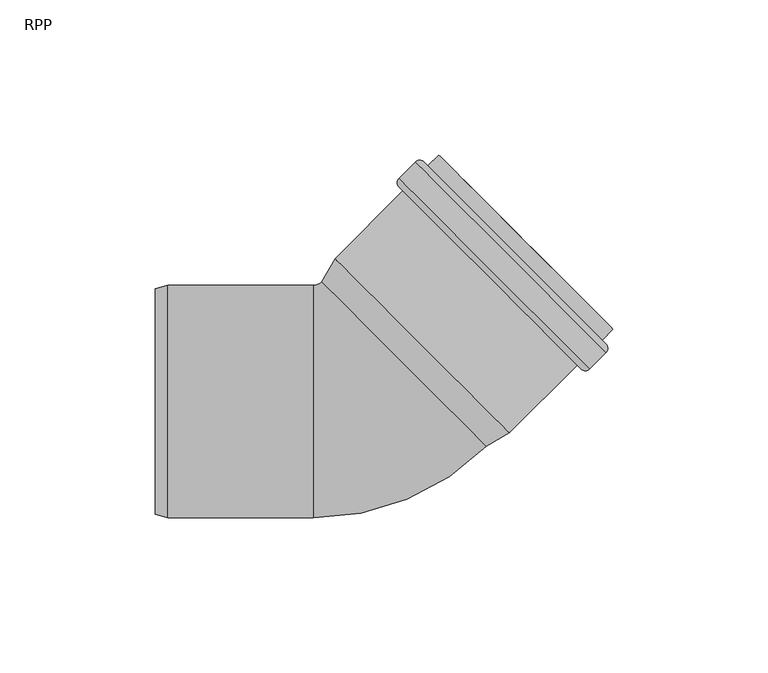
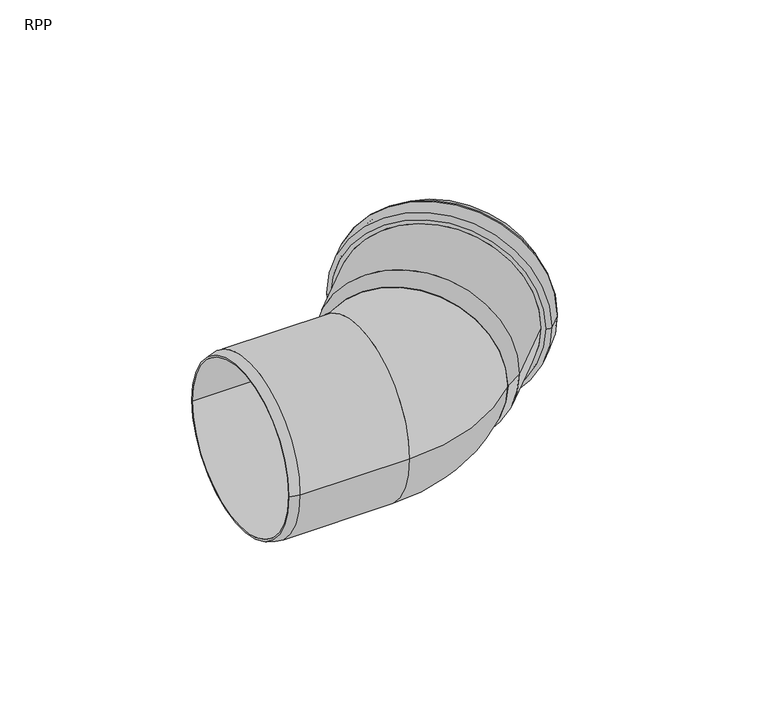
"""IFC4 building model written with IfcOpenShell, lengths in millimetres: pipe fitting geometry, RAUPIANO PLUS Bend : RPP."""

from ifc_helpers import new_model, si_unit, point, frame, origin, place, context, project, spatial, polyline, circle_curve, ellipse_curve, trimmed, source, transform, mapped, element, save
from ifc_brep_helpers import plane_surface, cylinder_surface, revolved_surface, advanced_brep


def rpp_6b59349f(model_context):
    return source(origin(), model_context, "Body", "AdvancedBrep", [
        advanced_brep(
        [(37.2806763, -12.9705392, 0.0), (-12.9705392, 37.2806763, 0.0), (-8.5909837, 44.866289, 0.0), (44.866289, -8.5909837, 0.0), (46.0329163, -10.1113621, 0.0), (-10.1113621, 46.0329163, 0.0), (-14.3614357, 38.6715729, 0.0), (38.6715729, -14.3614357, 0.0), (67.9457936, 11.8015152, 0.0), (11.8015152, 67.9457936, 0.0), (77.2796031, 15.7613132, 0.0), (15.7613132, 77.2796031, 0.0), (10.528723, 72.0470129, 0.0), (72.0470129, 10.528723, 0.0), (79.5423448, 23.3980664, 0.0), (23.3980664, 79.5423448, 0.0), (19.8625325, 76.0068109, 0.0), (76.0068109, 19.8625325, 0.0), (73.3198052, 19.8625325, 0.0), (19.8625325, 73.3198052, 0.0), (24.7415693, 78.1988419, 0.0), (78.1988419, 24.7415693, 0.0), (70.9863528, 12.1550686, 0.0), (12.1550686, 70.9863528, 0.0), (16.8219733, 75.6532575, 0.0), (75.6532575, 16.8219733, 0.0), (14.488521, 67.9457936, 0.0), (67.9457936, 14.488521, 0.0), (10.528723, 69.2185858, 0.0), (69.2185858, 10.528723, 0.0), (77.2796031, 18.5897403, 0.0), (18.5897403, 77.2796031, 0.0), (17.5290801, 75.6532575, 0.0), (75.6532575, 17.5290801, 0.0), (70.279246, 12.1550686, 0.0), (12.1550686, 70.279246, 0.0)],
        [
            (0, 1, circle_curve(frame((12.1550686, 12.1550686, 0.0), z_axis=(-0.7071067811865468, -0.7071067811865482, 0.0), x_axis=(-0.7071067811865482, 0.7071067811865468, 0.0)), 35.5329753)),
            (1, 2),
            (2, 3, circle_curve(frame((18.1376526, 18.1376526, 0.0), z_axis=(0.7071067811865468, 0.7071067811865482, 0.0), x_axis=(-0.7071067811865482, 0.7071067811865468, 0.0)), 37.8)),
            (3, 0),
            (4, 5, circle_curve(frame((17.9607771, 17.9607771, 0.0), z_axis=(-0.7071067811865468, -0.7071067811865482, 0.0), x_axis=(-0.7071067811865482, 0.7071067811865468, 0.0)), 39.7)),
            (5, 6),
            (6, 7, circle_curve(frame((12.1550686, 12.1550686, 0.0), z_axis=(0.7071067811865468, 0.7071067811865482, 0.0), x_axis=(-0.7071067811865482, 0.7071067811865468, 0.0)), 37.5)),
            (7, 4),
            (8, 9, circle_curve(frame((39.8736544, 39.8736544, 0.0), z_axis=(-0.7071067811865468, -0.7071067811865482, 0.0), x_axis=(-0.7071067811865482, 0.7071067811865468, 0.0)), 39.7)),
            (9, 5),
            (4, 8),
            (10, 11, circle_curve(frame((46.5204581, 46.5204581, 0.0), z_axis=(-0.7071067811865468, -0.7071067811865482, 0.0), x_axis=(-0.7071067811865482, 0.7071067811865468, 0.0)), 43.5)),
            (11, 12),
            (12, 13, circle_curve(frame((41.287868, 41.287868, 0.0), z_axis=(0.7071067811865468, 0.7071067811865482, 0.0), x_axis=(-0.7071067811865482, 0.7071067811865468, 0.0)), 43.5)),
            (13, 10),
            (14, 15, circle_curve(frame((51.4702056, 51.4702056, 0.0), z_axis=(-0.7071067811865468, -0.7071067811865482, 0.0), x_axis=(-0.7071067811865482, 0.7071067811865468, 0.0)), 39.7)),
            (15, 16),
            (16, 17, circle_curve(frame((47.9346717, 47.9346717, 0.0), z_axis=(0.7071067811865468, 0.7071067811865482, 0.0), x_axis=(-0.7071067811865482, 0.7071067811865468, 0.0)), 39.7)),
            (17, 14),
            (18, 19, circle_curve(frame((46.5911688, 46.5911688, 0.0), z_axis=(-0.7071067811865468, -0.7071067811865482, 0.0), x_axis=(-0.7071067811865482, 0.7071067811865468, 0.0)), 37.8)),
            (19, 20),
            (20, 21, circle_curve(frame((51.4702056, 51.4702056, 0.0), z_axis=(0.7071067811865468, 0.7071067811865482, 0.0), x_axis=(-0.7071067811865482, 0.7071067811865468, 0.0)), 37.8)),
            (21, 18),
            (22, 23, circle_curve(frame((41.5707107, 41.5707107, 0.0), z_axis=(-0.7071067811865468, -0.7071067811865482, 0.0), x_axis=(-0.7071067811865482, 0.7071067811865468, 0.0)), 41.6)),
            (23, 24),
            (24, 25, circle_curve(frame((46.2376154, 46.2376154, 0.0), z_axis=(0.7071067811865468, 0.7071067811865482, 0.0), x_axis=(-0.7071067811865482, 0.7071067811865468, 0.0)), 41.6)),
            (25, 22),
            (2, 26),
            (26, 27, circle_curve(frame((41.2171573, 41.2171573, 0.0), z_axis=(0.7071067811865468, 0.7071067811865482, 0.0), x_axis=(-0.7071067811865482, 0.7071067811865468, 0.0)), 37.8)),
            (27, 3),
            (1, 0, circle_curve(frame((12.1550686, 12.1550686, 0.0), z_axis=(-0.7071067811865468, -0.7071067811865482, 0.0), x_axis=(0.7071067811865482, -0.7071067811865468, 0.0)), 35.5329753)),
            (3, 2, circle_curve(frame((18.1376526, 18.1376526, 0.0), z_axis=(0.7071067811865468, 0.7071067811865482, 0.0), x_axis=(0.7071067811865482, -0.7071067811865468, 0.0)), 37.8)),
            (6, 7, circle_curve(frame((12.1550686, 12.1550686, 0.0), z_axis=(-0.7071067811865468, -0.7071067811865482, 0.0), x_axis=(0.7071067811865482, -0.7071067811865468, 0.0)), 37.5)),
            (5, 4, circle_curve(frame((17.9607771, 17.9607771, 0.0), z_axis=(-0.7071067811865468, -0.7071067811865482, 0.0), x_axis=(0.7071067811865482, -0.7071067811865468, 0.0)), 39.7)),
            (9, 8, circle_curve(frame((39.8736544, 39.8736544, 0.0), z_axis=(-0.7071067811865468, -0.7071067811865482, 0.0), x_axis=(0.7071067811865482, -0.7071067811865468, 0.0)), 39.7)),
            (28, 29, circle_curve(frame((39.8736544, 39.8736544, 0.0), z_axis=(-0.7071067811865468, -0.7071067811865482, 0.0), x_axis=(0.7071067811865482, -0.7071067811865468, 0.0)), 41.5)),
            (29, 28, circle_curve(frame((39.8736544, 39.8736544, 0.0), z_axis=(-0.7071067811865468, -0.7071067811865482, 0.0), x_axis=(-0.7071067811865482, 0.7071067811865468, 0.0)), 41.5)),
            (11, 10, circle_curve(frame((46.5204581, 46.5204581, 0.0), z_axis=(-0.7071067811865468, -0.7071067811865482, 0.0), x_axis=(0.7071067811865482, -0.7071067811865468, 0.0)), 43.5)),
            (13, 12, circle_curve(frame((41.287868, 41.287868, 0.0), z_axis=(0.7071067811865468, 0.7071067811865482, 0.0), x_axis=(0.7071067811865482, -0.7071067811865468, 0.0)), 43.5)),
            (30, 31, circle_curve(frame((47.9346717, 47.9346717, 0.0), z_axis=(0.7071067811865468, 0.7071067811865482, 0.0), x_axis=(0.7071067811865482, -0.7071067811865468, 0.0)), 41.5)),
            (31, 30, circle_curve(frame((47.9346717, 47.9346717, 0.0), z_axis=(0.7071067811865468, 0.7071067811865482, 0.0), x_axis=(-0.7071067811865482, 0.7071067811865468, 0.0)), 41.5)),
            (16, 17, circle_curve(frame((47.9346717, 47.9346717, 0.0), z_axis=(-0.7071067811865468, -0.7071067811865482, 0.0), x_axis=(0.7071067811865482, -0.7071067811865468, 0.0)), 39.7)),
            (15, 14, circle_curve(frame((51.4702056, 51.4702056, 0.0), z_axis=(-0.7071067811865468, -0.7071067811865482, 0.0), x_axis=(0.7071067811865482, -0.7071067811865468, 0.0)), 39.7)),
            (20, 21, circle_curve(frame((51.4702056, 51.4702056, 0.0), z_axis=(-0.7071067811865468, -0.7071067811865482, 0.0), x_axis=(0.7071067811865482, -0.7071067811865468, 0.0)), 37.8)),
            (19, 18, circle_curve(frame((46.5911688, 46.5911688, 0.0), z_axis=(-0.7071067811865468, -0.7071067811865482, 0.0), x_axis=(0.7071067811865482, -0.7071067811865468, 0.0)), 37.8)),
            (32, 33, circle_curve(frame((46.5911688, 46.5911688, 0.0), z_axis=(-0.7071067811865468, -0.7071067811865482, 0.0), x_axis=(0.7071067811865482, -0.7071067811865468, 0.0)), 41.1)),
            (33, 32, circle_curve(frame((46.5911688, 46.5911688, 0.0), z_axis=(-0.7071067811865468, -0.7071067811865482, 0.0), x_axis=(-0.7071067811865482, 0.7071067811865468, 0.0)), 41.1)),
            (23, 22, circle_curve(frame((41.5707107, 41.5707107, 0.0), z_axis=(-0.7071067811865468, -0.7071067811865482, 0.0), x_axis=(0.7071067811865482, -0.7071067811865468, 0.0)), 41.6)),
            (25, 24, circle_curve(frame((46.2376154, 46.2376154, 0.0), z_axis=(0.7071067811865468, 0.7071067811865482, 0.0), x_axis=(0.7071067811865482, -0.7071067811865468, 0.0)), 41.6)),
            (34, 35, circle_curve(frame((41.2171573, 41.2171573, 0.0), z_axis=(0.7071067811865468, 0.7071067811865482, 0.0), x_axis=(0.7071067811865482, -0.7071067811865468, 0.0)), 41.1)),
            (35, 34, circle_curve(frame((41.2171573, 41.2171573, 0.0), z_axis=(0.7071067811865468, 0.7071067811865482, 0.0), x_axis=(-0.7071067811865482, 0.7071067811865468, 0.0)), 41.1)),
            (26, 27, circle_curve(frame((41.2171573, 41.2171573, 0.0), z_axis=(-0.7071067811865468, -0.7071067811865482, 0.0), x_axis=(0.7071067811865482, -0.7071067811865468, 0.0)), 37.8)),
            (12, 28, circle_curve(frame((11.9429365, 70.6327994, 0.0), z_axis=(0.0, 0.0, 1.0), x_axis=(0.7071067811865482, -0.7071067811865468, 0.0)), 2.0)),
            (29, 13, circle_curve(frame((70.6327994, 11.9429365, 0.0), z_axis=(0.0, 0.0, 1.0), x_axis=(-0.7071067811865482, 0.7071067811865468, 0.0)), 2.0)),
            (31, 11, circle_curve(frame((17.1755267, 75.8653896, 0.0), z_axis=(0.0, 0.0, 1.0), x_axis=(0.7071067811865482, -0.7071067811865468, 0.0)), 2.0)),
            (10, 30, circle_curve(frame((75.8653896, 17.1755267, 0.0), z_axis=(0.0, 0.0, 1.0), x_axis=(-0.7071067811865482, 0.7071067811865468, 0.0)), 2.0)),
            (24, 32, circle_curve(frame((17.1755267, 75.2997041, 0.0), z_axis=(0.0, 0.0, -1.0), x_axis=(0.7071067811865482, -0.7071067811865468, 0.0)), 0.5)),
            (33, 25, circle_curve(frame((75.2997041, 17.1755267, 0.0), z_axis=(0.0, 0.0, -1.0), x_axis=(-0.7071067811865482, 0.7071067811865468, 0.0)), 0.5)),
            (35, 23, circle_curve(frame((12.508622, 70.6327994, 0.0), z_axis=(0.0, 0.0, -1.0), x_axis=(0.7071067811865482, -0.7071067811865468, 0.0)), 0.5)),
            (22, 34, circle_curve(frame((70.6327994, 12.508622, 0.0), z_axis=(0.0, 0.0, -1.0), x_axis=(-0.7071067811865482, 0.7071067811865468, 0.0)), 0.5)),
        ],
        [
            revolved_surface(polyline([(-8.5909837, 44.866289, 0.0), (-12.9705392, 37.2806763, 0.0)]), (12.1550686, 12.1550686, 0.0), (0.7071067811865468, 0.7071067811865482, 0.0)),
            revolved_surface(polyline([(-14.3614357, 38.6715729, 0.0), (-10.1113621, 46.0329163, 0.0)]), (12.1550686, 12.1550686, 0.0), (0.7071067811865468, 0.7071067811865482, 0.0)),
            cylinder_surface(frame((12.1550686, 12.1550686, 0.0), z_axis=(0.7071067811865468, 0.7071067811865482, 0.0), x_axis=(-0.7071067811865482, 0.7071067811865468, 0.0)), 39.7),
            cylinder_surface(frame((12.1550686, 12.1550686, 0.0), z_axis=(0.7071067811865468, 0.7071067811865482, 0.0), x_axis=(-0.7071067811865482, 0.7071067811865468, 0.0)), 43.5),
            revolved_surface(polyline([(24.741569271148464, 78.19884192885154, 0.0), (19.86253247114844, 73.3198051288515, 0.0)]), (12.1550686, 12.1550686, 0.0), (0.7071067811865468, 0.7071067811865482, 0.0)),
            revolved_surface(polyline([(16.821973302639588, 75.65325749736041, 0.0), (12.155068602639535, 70.98635279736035, 0.0)]), (12.1550686, 12.1550686, 0.0), (0.7071067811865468, 0.7071067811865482, 0.0)),
            revolved_surface(polyline([(14.488520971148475, 67.94579362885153, 0.0), (-8.59098372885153, 44.866288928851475, 0.0)]), (12.1550686, 12.1550686, 0.0), (0.7071067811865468, 0.7071067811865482, 0.0)),
            revolved_surface(polyline([(44.866289, -8.5909837, 0.0), (37.2806763, -12.9705392, 0.0)]), (12.1550686, 12.1550686, 0.0), (0.7071067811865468, 0.7071067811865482, 0.0)),
            plane_surface(frame((12.1550686, 12.1550686, 0.0), z_axis=(-0.7071067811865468, -0.7071067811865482, 0.0), x_axis=(0.7071067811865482, -0.7071067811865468, 0.0))),
            revolved_surface(polyline([(38.6715729, -14.3614357, 0.0), (46.0329163, -10.1113621, 0.0)]), (12.1550686, 12.1550686, 0.0), (0.7071067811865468, 0.7071067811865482, 0.0)),
            cylinder_surface(frame((12.1550686, 12.1550686, 0.0), z_axis=(0.7071067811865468, 0.7071067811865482, 0.0), x_axis=(0.7071067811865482, -0.7071067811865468, 0.0)), 39.7),
            plane_surface(frame((39.8736544, 39.8736544, 0.0), z_axis=(-0.7071067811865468, -0.7071067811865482, 0.0), x_axis=(0.7071067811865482, -0.7071067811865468, 0.0))),
            cylinder_surface(frame((12.1550686, 12.1550686, 0.0), z_axis=(0.7071067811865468, 0.7071067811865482, 0.0), x_axis=(0.7071067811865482, -0.7071067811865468, 0.0)), 43.5),
            plane_surface(frame((47.9346717, 47.9346717, 0.0), z_axis=(0.7071067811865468, 0.7071067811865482, 0.0), x_axis=(0.7071067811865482, -0.7071067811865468, 0.0))),
            plane_surface(frame((51.4702056, 51.4702056, 0.0), z_axis=(0.7071067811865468, 0.7071067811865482, 0.0), x_axis=(0.7071067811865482, -0.7071067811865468, 0.0))),
            revolved_surface(polyline([(78.19884192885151, 24.741569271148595, 0.0), (73.31980512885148, 19.862532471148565, 0.0)]), (12.1550686, 12.1550686, 0.0), (0.7071067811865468, 0.7071067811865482, 0.0)),
            plane_surface(frame((46.5911688, 46.5911688, 0.0), z_axis=(-0.7071067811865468, -0.7071067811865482, 0.0), x_axis=(0.7071067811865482, -0.7071067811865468, 0.0))),
            revolved_surface(polyline([(75.65325749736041, 16.82197330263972, 0.0), (70.98635279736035, 12.155068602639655, 0.0)]), (12.1550686, 12.1550686, 0.0), (0.7071067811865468, 0.7071067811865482, 0.0)),
            plane_surface(frame((41.2171573, 41.2171573, 0.0), z_axis=(0.7071067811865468, 0.7071067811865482, 0.0), x_axis=(0.7071067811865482, -0.7071067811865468, 0.0))),
            revolved_surface(polyline([(67.94579362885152, 14.488520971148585, 0.0), (44.86628892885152, -8.590983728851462, 0.0)]), (12.1550686, 12.1550686, 0.0), (0.7071067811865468, 0.7071067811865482, 0.0)),
            revolved_surface(trimmed(ellipse_curve(frame((11.9429365, 70.6327994, 0.0), z_axis=(0.0, 0.0, -1.0), x_axis=(0.7071067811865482, -0.7071067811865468, 0.0)), 2.0, 2.0), [point((10.528723, 69.2185858, 0.0))], [point((10.528723, 72.0470129, 0.0))], True, "CARTESIAN"), (12.1550686, 12.1550686, 0.0), (0.7071067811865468, 0.7071067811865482, 0.0)),
            revolved_surface(trimmed(ellipse_curve(frame((17.1755267, 75.8653896, 0.0), z_axis=(0.0, 0.0, -1.0), x_axis=(0.7071067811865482, -0.7071067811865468, 0.0)), 2.0, 2.0), [point((15.7613132, 77.2796031, 0.0))], [point((18.5897403, 77.2796031, 0.0))], True, "CARTESIAN"), (12.1550686, 12.1550686, 0.0), (0.7071067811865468, 0.7071067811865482, 0.0)),
            revolved_surface(trimmed(ellipse_curve(frame((17.1755267, 75.2997041, 0.0), z_axis=(0.0, 0.0, 1.0), x_axis=(0.7071067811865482, -0.7071067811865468, 0.0)), 0.5, 0.5), [point((17.5290801, 75.6532575, 0.0))], [point((16.8219733, 75.6532575, 0.0))], True, "CARTESIAN"), (12.1550686, 12.1550686, 0.0), (0.7071067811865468, 0.7071067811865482, 0.0)),
            revolved_surface(trimmed(ellipse_curve(frame((12.508622, 70.6327994, 0.0), z_axis=(0.0, 0.0, 1.0), x_axis=(0.7071067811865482, -0.7071067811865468, 0.0)), 0.5, 0.5), [point((12.1550686, 70.9863528, 0.0))], [point((12.1550686, 70.279246, 0.0))], True, "CARTESIAN"), (12.1550686, 12.1550686, 0.0), (0.7071067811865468, 0.7071067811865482, 0.0)),
            revolved_surface(trimmed(ellipse_curve(frame((70.6327994, 11.9429365, 0.0), z_axis=(0.0, 0.0, 1.0), x_axis=(-0.7071067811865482, 0.7071067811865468, 0.0)), 2.0, 2.0), [point((69.2185858, 10.528723, 0.0))], [point((72.0470129, 10.528723, 0.0))], True, "CARTESIAN"), (12.1550686, 12.1550686, 0.0), (0.7071067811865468, 0.7071067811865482, 0.0)),
            revolved_surface(trimmed(ellipse_curve(frame((75.8653896, 17.1755267, 0.0), z_axis=(0.0, 0.0, 1.0), x_axis=(-0.7071067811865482, 0.7071067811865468, 0.0)), 2.0, 2.0), [point((77.2796031, 15.7613132, 0.0))], [point((77.2796031, 18.5897403, 0.0))], True, "CARTESIAN"), (12.1550686, 12.1550686, 0.0), (0.7071067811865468, 0.7071067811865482, 0.0)),
            revolved_surface(trimmed(ellipse_curve(frame((75.2997041, 17.1755267, 0.0), z_axis=(0.0, 0.0, -1.0), x_axis=(-0.7071067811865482, 0.7071067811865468, 0.0)), 0.5, 0.5), [point((75.6532575, 17.5290801, 0.0))], [point((75.6532575, 16.8219733, 0.0))], True, "CARTESIAN"), (12.1550686, 12.1550686, 0.0), (0.7071067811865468, 0.7071067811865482, 0.0)),
            revolved_surface(trimmed(ellipse_curve(frame((70.6327994, 12.508622, 0.0), z_axis=(0.0, 0.0, -1.0), x_axis=(-0.7071067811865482, 0.7071067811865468, 0.0)), 0.5, 0.5), [point((70.9863528, 12.1550686, 0.0))], [point((70.279246, 12.1550686, 0.0))], True, "CARTESIAN"), (12.1550686, 12.1550686, 0.0), (0.7071067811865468, 0.7071067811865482, 0.0)),
        ],
        [
            (0, [[1, 2, 3, 4]]),
            (1, [[5, 6, 7, 8]]),
            (2, [[9, 10, -5, 11]]),
            (3, [[12, 13, 14, 15]]),
            (2, [[16, 17, 18, 19]]),
            (4, [[20, 21, 22, 23]]),
            (5, [[24, 25, 26, 27]]),
            (6, [[-3, 28, 29, 30]]),
            (7, [[31, -4, 32, -2]]),
            (8, [[33, -7], [-31, -1]]),
            (9, [[34, -8, -33, -6]]),
            (10, [[35, -11, -34, -10]]),
            (11, [[36, 37], [-35, -9]]),
            (12, [[38, -15, 39, -13]]),
            (13, [[40, 41], [42, -18]]),
            (10, [[43, -19, -42, -17]]),
            (14, [[-43, -16], [44, -22]]),
            (15, [[45, -23, -44, -21]]),
            (16, [[46, 47], [-45, -20]]),
            (17, [[48, -27, 49, -25]]),
            (18, [[50, 51], [52, -29]]),
            (19, [[-32, -30, -52, -28]]),
            (20, [[-14, 53, -37, 54]]),
            (21, [[-41, 55, -12, 56]]),
            (22, [[-26, 57, -47, 58]]),
            (23, [[-51, 59, -24, 60]]),
            (24, [[-39, -54, -36, -53]]),
            (25, [[-40, -56, -38, -55]]),
            (26, [[-49, -58, -46, -57]]),
            (27, [[-50, -60, -48, -59]]),
        ],
    ),
        advanced_brep(
        [(-17.1898628, 35.6, 0.0), (-17.1898628, -35.6, 0.0), (-68.1898628, -35.6, 0.0), (-68.1898628, 35.6, 0.0), (-64.084607, 37.5, 0.0), (-64.084607, -37.5, 0.0), (-17.1898628, -37.5, 0.0), (-17.1898628, 37.5, 0.0), (-68.1898628, 36.4, 0.0), (-68.1898628, -36.4, 0.0)],
        [
            (0, 1, circle_curve(frame((-17.1898628, 0.0, 0.0), z_axis=(1.0, 0.0, 0.0), x_axis=(0.0, -1.0, 0.0)), 35.6)),
            (1, 2),
            (2, 3, circle_curve(frame((-68.1898628, 0.0, 0.0), z_axis=(-1.0, 0.0, 0.0), x_axis=(0.0, -1.0, 0.0)), 35.6)),
            (3, 0),
            (4, 5, circle_curve(frame((-64.084607, 0.0, 0.0), z_axis=(1.0, 0.0, 0.0), x_axis=(0.0, -1.0, 0.0)), 37.5)),
            (5, 6),
            (6, 7, circle_curve(frame((-17.1898628, 0.0, 0.0), z_axis=(-1.0, 0.0, 0.0), x_axis=(0.0, -1.0, 0.0)), 37.5)),
            (7, 4),
            (8, 9, circle_curve(frame((-68.1898628, 0.0, 0.0), z_axis=(1.0, 0.0, 0.0), x_axis=(0.0, -1.0, 0.0)), 36.4)),
            (9, 5),
            (4, 8),
            (1, 0, circle_curve(frame((-17.1898628, 0.0, 0.0), z_axis=(1.0, 0.0, 0.0), x_axis=(0.0, 1.0, 0.0)), 35.6)),
            (3, 2, circle_curve(frame((-68.1898628, 0.0, 0.0), z_axis=(-1.0, 0.0, 0.0), x_axis=(0.0, 1.0, 0.0)), 35.6)),
            (6, 7, circle_curve(frame((-17.1898628, 0.0, 0.0), z_axis=(1.0, 0.0, 0.0), x_axis=(0.0, 1.0, 0.0)), 37.5)),
            (5, 4, circle_curve(frame((-64.084607, 0.0, 0.0), z_axis=(1.0, 0.0, 0.0), x_axis=(0.0, 1.0, 0.0)), 37.5)),
            (9, 8, circle_curve(frame((-68.1898628, 0.0, 0.0), z_axis=(1.0, 0.0, 0.0), x_axis=(0.0, 1.0, 0.0)), 36.4)),
        ],
        [
            revolved_surface(polyline([(-68.1898628, -35.6, 0.0), (-17.1898628, -35.6, 0.0)]), (-17.1898628, 0.0, 0.0), (-1.0, 0.0, 0.0)),
            cylinder_surface(frame((-17.1898628, 0.0, 0.0), z_axis=(-1.0, 0.0, 0.0), x_axis=(0.0, -1.0, 0.0)), 37.5),
            revolved_surface(polyline([(-64.084607, -37.5, 0.0), (-68.1898628, -36.4, 0.0)]), (-17.1898628, 0.0, 0.0), (-1.0, 0.0, 0.0)),
            revolved_surface(polyline([(-68.1898628, 35.6, 0.0), (-17.1898628, 35.6, 0.0)]), (-17.1898628, 0.0, 0.0), (-1.0, 0.0, 0.0)),
            plane_surface(frame((-17.1898628, 0.0, 0.0), z_axis=(1.0, 0.0, 0.0), x_axis=(0.0, 1.0, 0.0))),
            cylinder_surface(frame((-17.1898628, 0.0, 0.0), z_axis=(-1.0, 0.0, 0.0), x_axis=(0.0, 1.0, 0.0)), 37.5),
            revolved_surface(polyline([(-64.084607, 37.5, 0.0), (-68.1898628, 36.4, 0.0)]), (-17.1898628, 0.0, 0.0), (-1.0, 0.0, 0.0)),
            plane_surface(frame((-68.1898628, 0.0, 0.0), z_axis=(-1.0, 0.0, 0.0), x_axis=(0.0, 1.0, 0.0))),
        ],
        [
            (0, [[1, 2, 3, 4]]),
            (1, [[5, 6, 7, 8]]),
            (2, [[9, 10, -5, 11]]),
            (3, [[12, -4, 13, -2]]),
            (4, [[14, -7], [-12, -1]]),
            (5, [[15, -8, -14, -6]]),
            (6, [[16, -11, -15, -10]]),
            (7, [[-16, -9], [-13, -3]]),
        ],
    ),
        advanced_brep(
        [(-17.1898628, -37.5, 0.0), (-17.1898628, 37.5, 0.0), (-17.1898628, -35.6, 0.0), (-17.1898628, 35.6, 0.0), (38.6715729, -14.3614357, 0.0), (-14.3614357, 38.6715729, 0.0), (37.32807, -13.0179328, 0.0), (-13.0179328, 37.32807, 0.0)],
        [
            (0, 1, circle_curve(frame((-17.1898628, 0.0, 0.0), z_axis=(-1.0, 0.0, 0.0), x_axis=(0.0, 1.0, 0.0)), 37.5)),
            (1, 0, circle_curve(frame((-17.1898628, 0.0, 0.0), z_axis=(-1.0, 0.0, 0.0), x_axis=(0.0, 1.0, 0.0)), 37.5)),
            (2, 3, circle_curve(frame((-17.1898628, 0.0, 0.0), z_axis=(1.0, 0.0, 0.0), x_axis=(0.0, 1.0, 0.0)), 35.6)),
            (3, 2, circle_curve(frame((-17.1898628, 0.0, 0.0), z_axis=(1.0, 0.0, 0.0), x_axis=(0.0, 1.0, 0.0)), 35.6)),
            (4, 5, circle_curve(frame((12.1550686, 12.1550686, 0.0), z_axis=(0.7071067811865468, 0.7071067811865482, 0.0), x_axis=(-0.7071067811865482, 0.7071067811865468, 0.0)), 37.5)),
            (5, 4, circle_curve(frame((12.1550686, 12.1550686, 0.0), z_axis=(0.7071067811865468, 0.7071067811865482, 0.0), x_axis=(-0.7071067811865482, 0.7071067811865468, 0.0)), 37.5)),
            (6, 7, circle_curve(frame((12.1550686, 12.1550686, 0.0), z_axis=(-0.7071067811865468, -0.7071067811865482, 0.0), x_axis=(-0.7071067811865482, 0.7071067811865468, 0.0)), 35.6)),
            (7, 6, circle_curve(frame((12.1550686, 12.1550686, 0.0), z_axis=(-0.7071067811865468, -0.7071067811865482, 0.0), x_axis=(-0.7071067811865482, 0.7071067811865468, 0.0)), 35.6)),
            (7, 3, circle_curve(frame((-17.1898628, 41.5, 0.0), z_axis=(0.0, 0.0, -1.0), x_axis=(0.0, -1.0, 0.0)), 5.9)),
            (2, 6, circle_curve(frame((-17.1898628, 41.5, 0.0), z_axis=(0.0, 0.0, 1.0), x_axis=(0.0, -1.0, 0.0)), 77.1)),
            (5, 1, circle_curve(frame((-17.1898628, 41.5, 0.0), z_axis=(0.0, 0.0, -1.0), x_axis=(0.0, -1.0, 0.0)), 4.0)),
            (0, 4, circle_curve(frame((-17.1898628, 41.5, 0.0), z_axis=(0.0, 0.0, 1.0), x_axis=(0.0, -1.0, 0.0)), 79.0)),
        ],
        [
            plane_surface(frame((-17.1898628, 0.0, 0.0), z_axis=(-1.0, 0.0, 0.0), x_axis=(0.0, 0.0, 1.0))),
            plane_surface(frame((12.1550686, 12.1550686, 0.0), z_axis=(0.7071067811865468, 0.7071067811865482, 0.0), x_axis=(0.0, 0.0, 1.0))),
            revolved_surface(trimmed(ellipse_curve(frame((-17.1898628, 0.0, 0.0), z_axis=(1.0, 0.0, 0.0), x_axis=(0.0, 1.0, 0.0)), 35.6, 35.6), [point((-17.1898628, -35.6, 0.0))], [point((-17.1898628, 35.6, 0.0))], True, "CARTESIAN"), (-17.1898628, 41.5, 0.0), (0.0, 0.0, 1.0)),
            revolved_surface(trimmed(ellipse_curve(frame((-17.1898628, 0.0, 0.0), z_axis=(1.0, 0.0, 0.0), x_axis=(0.0, 1.0, 0.0)), 35.6, 35.6), [point((-17.1898628, 35.6, 0.0))], [point((-17.1898628, -35.6, 0.0))], True, "CARTESIAN"), (-17.1898628, 41.5, 0.0), (0.0, 0.0, 1.0)),
            revolved_surface(trimmed(ellipse_curve(frame((-17.1898628, 0.0, 0.0), z_axis=(-1.0, 0.0, 0.0), x_axis=(0.0, 1.0, 0.0)), 37.5, 37.5), [point((-17.1898628, -37.5, 0.0))], [point((-17.1898628, 37.5, 0.0))], True, "CARTESIAN"), (-17.1898628, 41.5, 0.0), (0.0, 0.0, 1.0)),
            revolved_surface(trimmed(ellipse_curve(frame((-17.1898628, 0.0, 0.0), z_axis=(-1.0, 0.0, 0.0), x_axis=(0.0, 1.0, 0.0)), 37.5, 37.5), [point((-17.1898628, 37.5, 0.0))], [point((-17.1898628, -37.5, 0.0))], True, "CARTESIAN"), (-17.1898628, 41.5, 0.0), (0.0, 0.0, 1.0)),
        ],
        [
            (0, [[1, 2], [3, 4]]),
            (1, [[5, 6], [7, 8]]),
            (2, [[9, -3, 10, -8]]),
            (3, [[-10, -4, -9, -7]]),
            (4, [[11, -1, 12, -6]]),
            (5, [[-12, -2, -11, -5]]),
        ],
    ),
    ])


if __name__ == "__main__":
    model = new_model("IFC4")
    model_context = context("Model", 3, world=origin())
    ifc_project = project(units=[si_unit("LENGTHUNIT", "METRE", prefix="MILLI")], contexts=[model_context])
    site = spatial("IfcSite", under=ifc_project)
    building = spatial("IfcBuilding", under=site)
    placement = place(None, origin())
    rpp_shape = rpp_6b59349f(model_context)
    element("IfcPipeFitting", 1, ObjectType="RAUPIANO PLUS Bend : RPP", at=placement, inside=building, context=model_context, shape_type="MappedRepresentation", body=[
        mapped(rpp_shape, transform((0.0, 0.0, 0.0), x_axis=(1.0, 0.0, 0.0), y_axis=(0.0, 1.0, 0.0), z_axis=(0.0, 0.0, 1.0))),
    ])
    save(model, "model.ifc")
